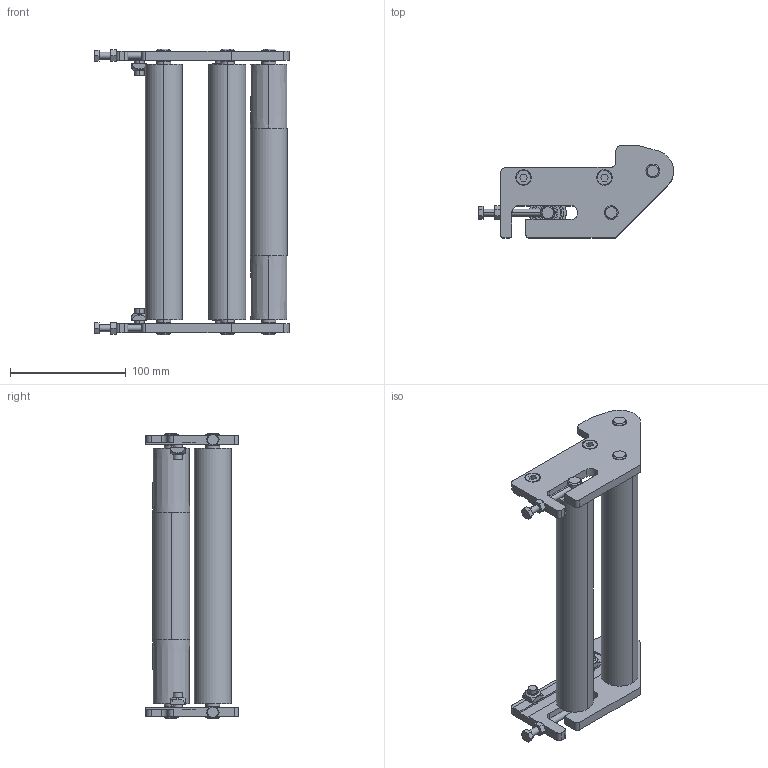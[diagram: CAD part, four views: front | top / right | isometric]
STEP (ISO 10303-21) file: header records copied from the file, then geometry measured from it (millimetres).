
FILE_DESCRIPTION (( 'STEP AP203' ), '1' );
FILE_NAME ('084.030.KF.200.STEP', '2019-07-29T09:53:40', ( '' ), ( '' ), 'SwSTEP 2.0', 'SolidWorks 2018', '' );
FILE_SCHEMA (( 'CONFIG_CONTROL_DESIGN' ));
Length unit declared in the file: millimetre
Products named in the file (11): 084.801.075; 084.301.000 VITI ALUSIC-2_084.301.002; 084.801.073_084.030.104; 084.030.KF.200; 084.302.000 DADI ALUSIC 13x13-1_084.302.004; 356.159.001 (sx); DADI ESAGONALI NORMALI UNI 5588_M6 UNI 5588; VITI TE UNI 5739_M6x50 UNI 5739; 084.801.074; 084.802.036; 356.159.001 (dx)
Assembly tree (26 placements, depth 2):
  084.030.KF.200
    356.159.001 (dx)
    356.159.001 (sx)
    084.801.074
    084.801.075  x3
    084.801.073_084.030.104  x2
    084.802.036  x6
    DADI ESAGONALI NORMALI UNI 5588_M6 UNI 5588  x2
    VITI TE UNI 5739_M6x50 UNI 5739  x2
    084.301.000 VITI ALUSIC-2_084.301.002  x4
    084.302.000 DADI ALUSIC 13x13-1_084.302.004  x4
Bounding box: 168.93 x 80 x 247.5 mm (x, y, z)
Volume: 397064.8 mm3; surface area: 227445.9 mm2
Topology: 32 solids, 38 shells, 770 faces, 1718 edges, 1074 vertices
Faces by surface type: cylinder 294, plane 248, torus 140, cone 72, bspline 16
Entity records: 10885 total; most frequent: CARTESIAN_POINT 2074, DIRECTION 1616, ORIENTED_EDGE 1432, EDGE_CURVE 716, AXIS2_PLACEMENT_3D 646, VERTEX_POINT 458, EDGE_LOOP 346, VECTOR 324
